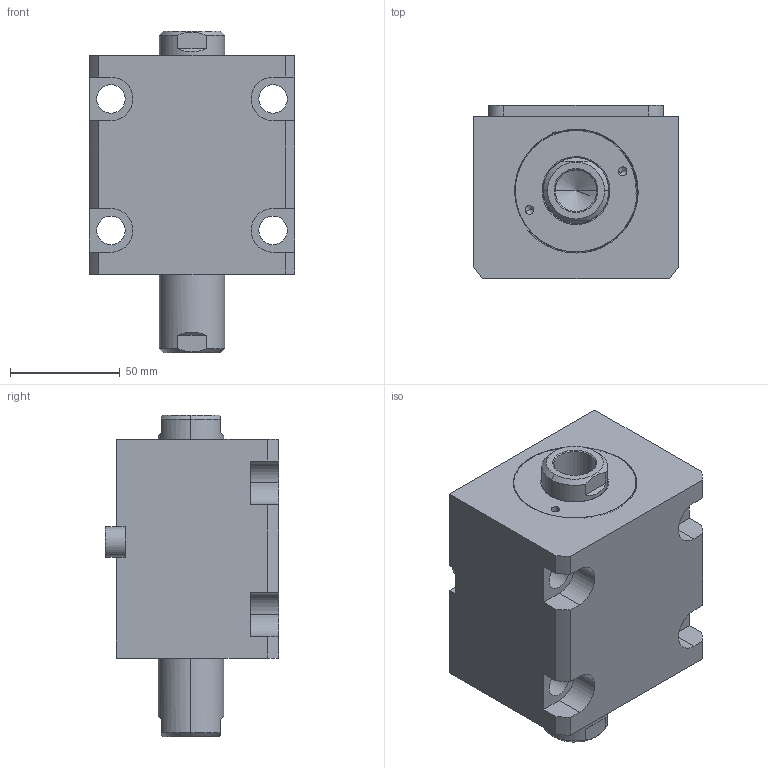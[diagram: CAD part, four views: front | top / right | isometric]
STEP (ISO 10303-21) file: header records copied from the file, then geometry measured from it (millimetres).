
FILE_DESCRIPTION (( 'STEP AP203' ), '1' );
FILE_NAME ('CHTB-LWM50-25N.STEP', '2018-05-22T08:37:46', ( '' ), ( '' ), 'SwSTEP 2.0', 'SolidWorks 2015', '' );
FILE_SCHEMA (( 'CONFIG_CONTROL_DESIGN' ));
Length unit declared in the file: millimetre
Products named in the file (4): CHTB-LWM50-25N; 掛极LWM50-25N; 活塞杆LWM50-25N; CHTM-SDMA50QG
Assembly tree (3 placements, depth 2):
  CHTB-LWM50-25N
    掛极LWM50-25N
    CHTM-SDMA50QG
    活塞杆LWM50-25N
Bounding box: 94 x 79 x 147 mm (x, y, z)
Volume: 626312.7 mm3; surface area: 110771.7 mm2
Topology: 3 solids, 3 shells, 213 faces, 571 edges, 374 vertices
Faces by surface type: cylinder 104, plane 57, cone 22, torus 16, bspline 14
Entity records: 11569 total; most frequent: CARTESIAN_POINT 6050, ORIENTED_EDGE 1126, DIRECTION 1011, EDGE_CURVE 563, AXIS2_PLACEMENT_3D 396, VERTEX_POINT 374, EDGE_LOOP 247, LINE 219
